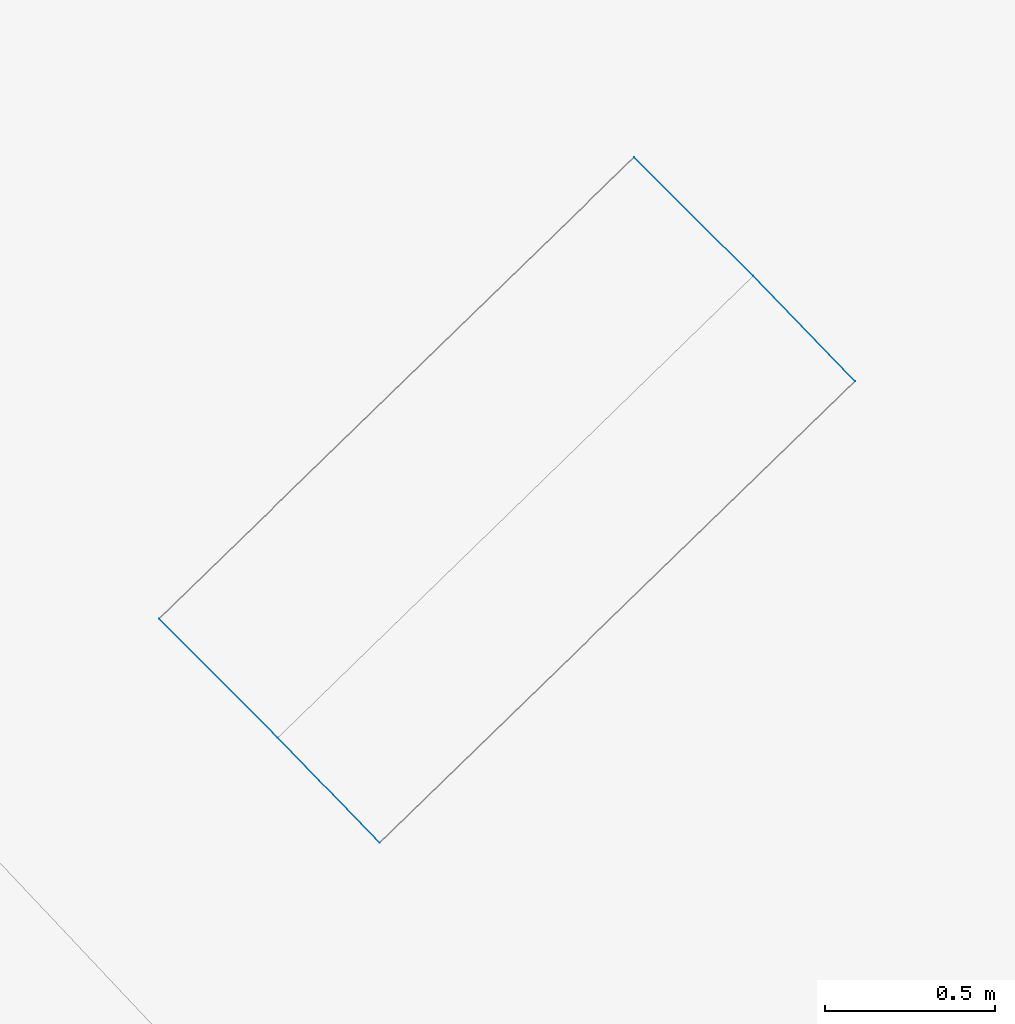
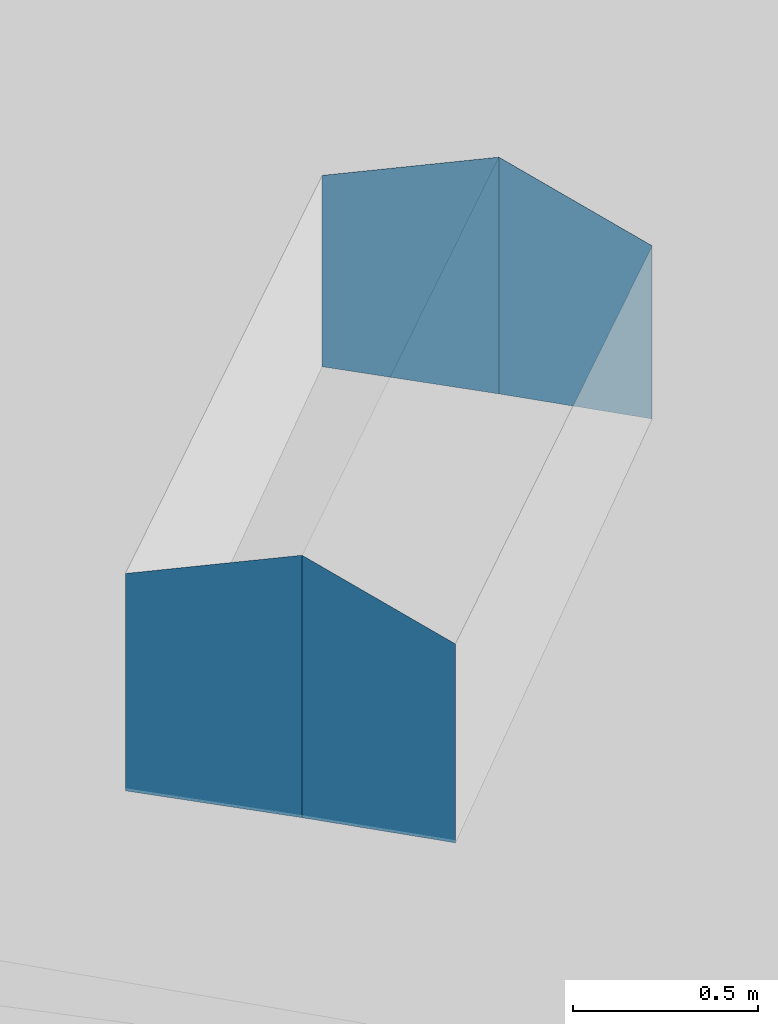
# Not in any storey, part 108 of 136: 4 walls.
"""IFC4 building model written with IfcOpenShell, lengths in metres."""

from ifc_helpers import new_model, entity, si_unit, converted_unit, origin, place, context, subcontext, project, spatial, face_set, surface_model, element, save


model = new_model("IFC4")

# Units and contexts
model_context = context("Model", 3, precision=1e-05, world=origin())
body_context = subcontext(model_context, "Body", "Model", "MODEL_VIEW")
ifc_project = project(units=[converted_unit("PLANEANGLEUNIT", "DEGREE", entity("IfcRatioMeasure", 0.0174532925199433), si_unit("PLANEANGLEUNIT", "RADIAN"), dimensions=[0, 0, 0, 0, 0, 0, 0]), si_unit("AREAUNIT", "SQUARE_METRE"), si_unit("LENGTHUNIT", "METRE")], contexts=[model_context])

# Site, building
site_placement = place(None, origin())
site = spatial("IfcSite", under=ifc_project, at=site_placement, Name="_site")
building_placement = place(site_placement, origin())
building = spatial("IfcBuilding", under=site, at=building_placement, Name="_building")

# Walls
wall_1_placement = place(building_placement, origin())
element("IfcWall", 1, at=wall_1_placement, inside=building, Name="Wall", PredefinedType="NOTDEFINED", context=body_context, shape_type="SurfaceModel", body=[
    surface_model("IfcFaceBasedSurfaceModel", [(44.73, 93.59, 51.54), (45.08, 93.24, 51.69), (45.08, 93.24, 50.908), (44.73, 93.59, 50.908)], [face_set([[[0, 1, 2, 3]]])]),
])
wall_2_placement = place(building_placement, origin())
element("IfcWall", 2, at=wall_2_placement, inside=building, Name="Wall", PredefinedType="NOTDEFINED", context=body_context, shape_type="SurfaceModel", body=[
    surface_model("IfcFaceBasedSurfaceModel", [(43.68, 91.88, 51.69), (43.33, 92.23, 51.54), (43.33, 92.23, 50.822), (43.68, 91.88, 50.823)], [face_set([[[0, 1, 2, 3]]])]),
])
wall_3_placement = place(building_placement, origin())
element("IfcWall", 3, at=wall_3_placement, inside=building, Name="Wall", PredefinedType="NOTDEFINED", context=body_context, shape_type="SurfaceModel", body=[
    surface_model("IfcFaceBasedSurfaceModel", [(43.98, 91.57, 51.48), (43.68, 91.88, 51.69), (43.68, 91.88, 50.823), (43.98, 91.57, 50.823)], [face_set([[[0, 1, 2, 3]]])]),
])
wall_4_placement = place(building_placement, origin())
element("IfcWall", 4, at=wall_4_placement, inside=building, Name="Wall", PredefinedType="NOTDEFINED", context=body_context, shape_type="SurfaceModel", body=[
    surface_model("IfcFaceBasedSurfaceModel", [(45.08, 93.24, 51.69), (45.38, 92.93, 51.48), (45.38, 92.93, 50.908), (45.08, 93.24, 50.908)], [face_set([[[0, 1, 2, 3]]])]),
])

save(model, "model.ifc")
